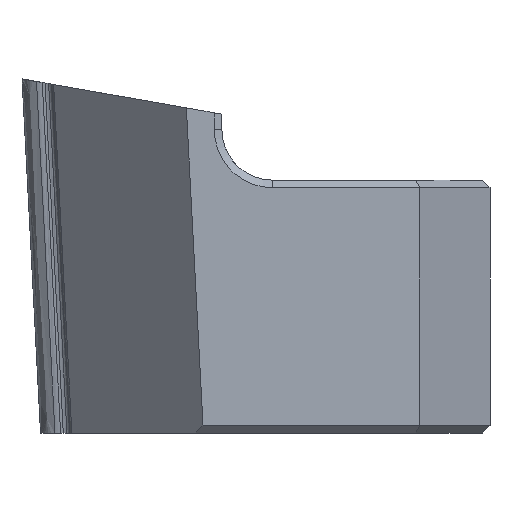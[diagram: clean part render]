
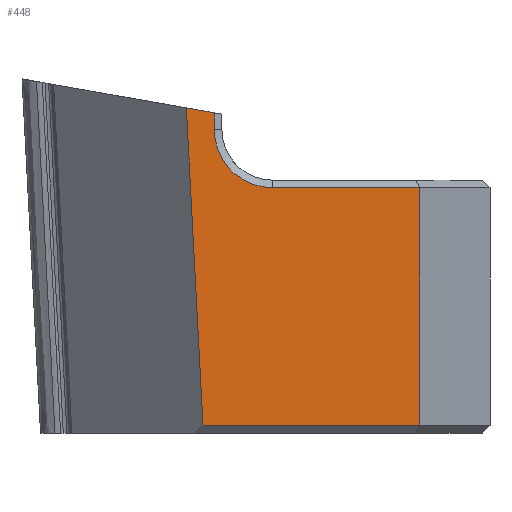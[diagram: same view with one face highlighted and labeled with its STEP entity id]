
A CAD part, left-side view. The second image highlights one B-rep face of the part: STEP entity #448.
In plain terms, the highlighted planar face has unit normal (-1, 0, 0).
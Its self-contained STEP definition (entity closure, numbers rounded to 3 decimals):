
#9 = LINE ( 'NONE', #496, #522 ) ;
#17 = EDGE_LOOP ( 'NONE', ( #816, #1367, #680, #1066, #633, #1358, #1219 ) ) ;
#71 = VERTEX_POINT ( 'NONE', #1557 ) ;
#130 = CARTESIAN_POINT ( 'NONE',  ( -6.55, -14.543, -6.7 ) ) ;
#133 = DIRECTION ( 'NONE',  ( 0., -1., 0. ) ) ;
#176 = VECTOR ( 'NONE', #459, 1000. ) ;
#252 = DIRECTION ( 'NONE',  ( 0., 0., 1. ) ) ;
#263 = EDGE_CURVE ( 'NONE', #314, #1508, #1083, .T. ) ;
#314 = VERTEX_POINT ( 'NONE', #586 ) ;
#348 = VERTEX_POINT ( 'NONE', #1101 ) ;
#357 = CARTESIAN_POINT ( 'NONE',  ( -6.55, -14.543, 7. ) ) ;
#448 = ADVANCED_FACE ( 'NONE', ( #1085 ), #1568, .F. ) ;
#459 = DIRECTION ( 'NONE',  ( 0., -0.052, -0.999 ) ) ;
#462 = CARTESIAN_POINT ( 'NONE',  ( -6.55, -5.249, 7. ) ) ;
#483 = EDGE_CURVE ( 'NONE', #1097, #1299, #1469, .T. ) ;
#496 = CARTESIAN_POINT ( 'NONE',  ( -6.55, -6.711, 5.607 ) ) ;
#512 = VERTEX_POINT ( 'NONE', #654 ) ;
#522 = VECTOR ( 'NONE', #995, 1000. ) ;
#523 = CARTESIAN_POINT ( 'NONE',  ( -6.55, -8.711, 5. ) ) ;
#539 = LINE ( 'NONE', #1043, #1543 ) ;
#564 = EDGE_CURVE ( 'NONE', #1097, #348, #539, .T. ) ;
#586 = CARTESIAN_POINT ( 'NONE',  ( -6.55, -5.309, 5.854 ) ) ;
#603 = AXIS2_PLACEMENT_3D ( 'NONE', #523, #1027, #1516 ) ;
#633 = ORIENTED_EDGE ( 'NONE', *, *, #895, .T. ) ;
#654 = CARTESIAN_POINT ( 'NONE',  ( -6.55, -6.411, 5. ) ) ;
#680 = ORIENTED_EDGE ( 'NONE', *, *, #884, .F. ) ;
#712 = VECTOR ( 'NONE', #252, 1000. ) ;
#722 = VECTOR ( 'NONE', #857, 1000. ) ;
#741 = VECTOR ( 'NONE', #133, 1000. ) ;
#755 = LINE ( 'NONE', #1250, #741 ) ;
#816 = ORIENTED_EDGE ( 'NONE', *, *, #1346, .T. ) ;
#857 = DIRECTION ( 'NONE',  ( 0., 0., -1. ) ) ;
#860 = LINE ( 'NONE', #1369, #712 ) ;
#884 = EDGE_CURVE ( 'NONE', #314, #71, #9, .T. ) ;
#895 = EDGE_CURVE ( 'NONE', #1508, #1299, #755, .T. ) ;
#917 = CARTESIAN_POINT ( 'NONE',  ( -6.55, -5.967, -6.7 ) ) ;
#961 = DIRECTION ( 'NONE',  ( 1., 0., 0. ) ) ;
#995 = DIRECTION ( 'NONE',  ( 0., -0.985, -0.174 ) ) ;
#1027 = DIRECTION ( 'NONE',  ( 1., 0., 0. ) ) ;
#1043 = CARTESIAN_POINT ( 'NONE',  ( -6.55, -5.249, 2.7 ) ) ;
#1054 = CARTESIAN_POINT ( 'NONE',  ( -6.55, -14.543, 2.7 ) ) ;
#1066 = ORIENTED_EDGE ( 'NONE', *, *, #263, .T. ) ;
#1083 = LINE ( 'NONE', #1566, #176 ) ;
#1085 = FACE_OUTER_BOUND ( 'NONE', #17, .T. ) ;
#1097 = VERTEX_POINT ( 'NONE', #1054 ) ;
#1101 = CARTESIAN_POINT ( 'NONE',  ( -6.55, -8.711, 2.7 ) ) ;
#1210 = AXIS2_PLACEMENT_3D ( 'NONE', #462, #961, #1452 ) ;
#1219 = ORIENTED_EDGE ( 'NONE', *, *, #564, .T. ) ;
#1250 = CARTESIAN_POINT ( 'NONE',  ( -6.55, -5.249, -6.7 ) ) ;
#1286 = EDGE_CURVE ( 'NONE', #512, #71, #860, .T. ) ;
#1299 = VERTEX_POINT ( 'NONE', #130 ) ;
#1303 = CIRCLE ( 'NONE', #603, 2.3 ) ;
#1346 = EDGE_CURVE ( 'NONE', #348, #512, #1303, .T. ) ;
#1358 = ORIENTED_EDGE ( 'NONE', *, *, #483, .F. ) ;
#1367 = ORIENTED_EDGE ( 'NONE', *, *, #1286, .T. ) ;
#1369 = CARTESIAN_POINT ( 'NONE',  ( -6.55, -6.411, 7. ) ) ;
#1452 = DIRECTION ( 'NONE',  ( 0., 0., -1. ) ) ;
#1469 = LINE ( 'NONE', #357, #722 ) ;
#1508 = VERTEX_POINT ( 'NONE', #917 ) ;
#1516 = DIRECTION ( 'NONE',  ( 0., 0., -1. ) ) ;
#1529 = DIRECTION ( 'NONE',  ( 0., 1., 0. ) ) ;
#1543 = VECTOR ( 'NONE', #1529, 1000. ) ;
#1557 = CARTESIAN_POINT ( 'NONE',  ( -6.55, -6.411, 5.66 ) ) ;
#1566 = CARTESIAN_POINT ( 'NONE',  ( -6.55, -5.249, 7. ) ) ;
#1568 = PLANE ( 'NONE',  #1210 ) ;
